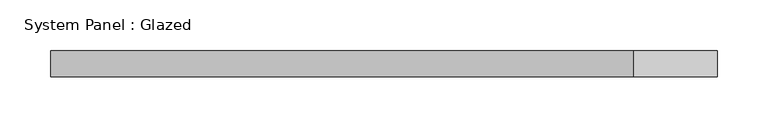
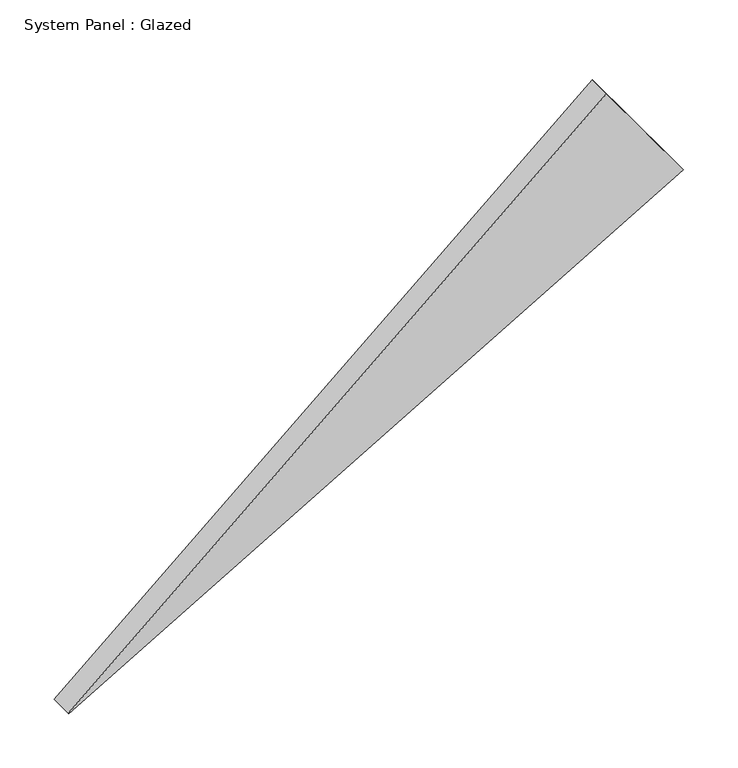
"""IFC4 building model written with IfcOpenShell, lengths in millimetres: plate geometry, System Panel : Glazed."""

from ifc_helpers import new_model, si_unit, frame, origin, place, context, project, spatial, polyline, outline, extrude, source, transform, mapped, element, save


def system_panel_glazed_589f0e04(model_context):
    return source(origin(), model_context, "Body", "SweptSolid", [
        extrude(outline(polyline([(0.6885209, -327.2755843), (0.0, -326.7828537), (381.9608029, 327.2755843), (496.5376, 245.2802523), (0.6885209, -327.2755843)])), frame((0.0, -44.45, 0.0), z_axis=(0.0, 1.0, 0.0), x_axis=(0.0, 0.0, 1.0)), (0.0, 0.0, 1.0), 25.4),
    ])


if __name__ == "__main__":
    model = new_model("IFC4")
    model_context = context("Model", 3, world=origin())
    ifc_project = project(units=[si_unit("LENGTHUNIT", "METRE", prefix="MILLI")], contexts=[model_context])
    site = spatial("IfcSite", under=ifc_project)
    building = spatial("IfcBuilding", under=site)
    placement = place(None, origin())
    system_panel_glazed_shape = system_panel_glazed_589f0e04(model_context)
    element("IfcPlate", 1, ObjectType="System Panel : Glazed", at=placement, inside=building, context=model_context, shape_type="MappedRepresentation", body=[
        mapped(system_panel_glazed_shape, transform((0.0, 0.0, 0.0), x_axis=(1.0, 0.0, 0.0), y_axis=(0.0, 1.0, 0.0), z_axis=(0.0, 0.0, 1.0))),
    ])
    save(model, "model.ifc")
